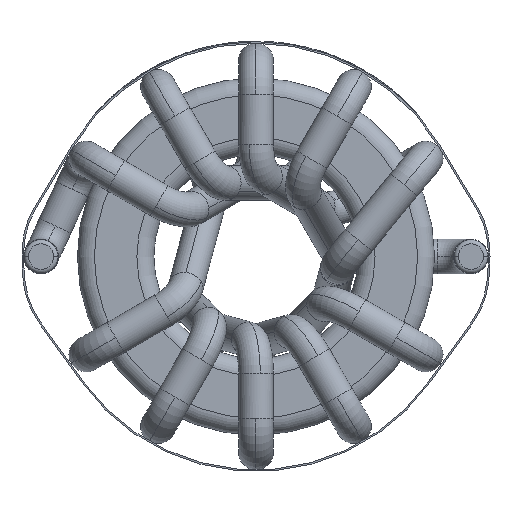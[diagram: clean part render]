
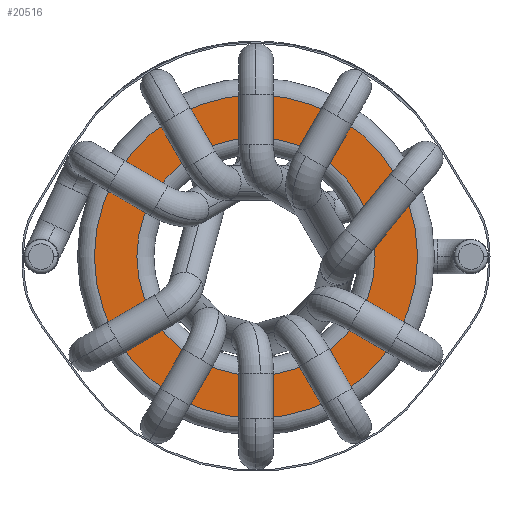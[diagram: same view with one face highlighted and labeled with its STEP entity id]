
A CAD part, front view. The second image highlights one B-rep face of the part: STEP entity #20516.
In plain terms, the highlighted planar face has unit normal (0, -1, 0).
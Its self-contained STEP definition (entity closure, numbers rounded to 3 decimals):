
#249 = CARTESIAN_POINT ( 'NONE',  ( 0., -3.555, 0. ) ) ;
#1054 = DIRECTION ( 'NONE',  ( 0., 1., 0. ) ) ;
#1132 = CARTESIAN_POINT ( 'NONE',  ( 0., -3.555, 0. ) ) ;
#1328 = VERTEX_POINT ( 'NONE', #8190 ) ;
#2429 = VERTEX_POINT ( 'NONE', #19123 ) ;
#2805 = CIRCLE ( 'NONE', #12874, 9.55 ) ;
#2823 = CARTESIAN_POINT ( 'NONE',  ( 0., -3.555, -9.55 ) ) ;
#2970 = DIRECTION ( 'NONE',  ( 0., 0., 1. ) ) ;
#3261 = EDGE_LOOP ( 'NONE', ( #7133, #7028 ) ) ;
#4321 = CARTESIAN_POINT ( 'NONE',  ( 0., -3.555, 0. ) ) ;
#5499 = DIRECTION ( 'NONE',  ( 0., 0., 1. ) ) ;
#7028 = ORIENTED_EDGE ( 'NONE', *, *, #14962, .T. ) ;
#7133 = ORIENTED_EDGE ( 'NONE', *, *, #19582, .T. ) ;
#8052 = PLANE ( 'NONE',  #20066 ) ;
#8190 = CARTESIAN_POINT ( 'NONE',  ( 0., -3.555, 7.035 ) ) ;
#8984 = EDGE_CURVE ( 'NONE', #2429, #1328, #20217, .T. ) ;
#10670 = AXIS2_PLACEMENT_3D ( 'NONE', #13580, #15247, #5499 ) ;
#10778 = CIRCLE ( 'NONE', #14723, 7.035 ) ;
#11069 = DIRECTION ( 'NONE',  ( 0., -1., 0. ) ) ;
#11091 = ORIENTED_EDGE ( 'NONE', *, *, #8984, .T. ) ;
#11337 = ORIENTED_EDGE ( 'NONE', *, *, #15934, .T. ) ;
#11715 = CARTESIAN_POINT ( 'NONE',  ( 0., -3.555, 0. ) ) ;
#11813 = VERTEX_POINT ( 'NONE', #2823 ) ;
#12466 = CARTESIAN_POINT ( 'NONE',  ( 0., -3.555, 9.55 ) ) ;
#12874 = AXIS2_PLACEMENT_3D ( 'NONE', #1132, #11069, #2970 ) ;
#13209 = DIRECTION ( 'NONE',  ( 0., 0., 1. ) ) ;
#13527 = DIRECTION ( 'NONE',  ( 0., 1., 0. ) ) ;
#13580 = CARTESIAN_POINT ( 'NONE',  ( 0., -3.555, 0. ) ) ;
#14614 = DIRECTION ( 'NONE',  ( 0., 1., 0. ) ) ;
#14723 = AXIS2_PLACEMENT_3D ( 'NONE', #11715, #13527, #19816 ) ;
#14962 = EDGE_CURVE ( 'NONE', #11813, #20360, #18607, .T. ) ;
#15247 = DIRECTION ( 'NONE',  ( 0., -1., 0. ) ) ;
#15615 = FACE_BOUND ( 'NONE', #20774, .T. ) ;
#15934 = EDGE_CURVE ( 'NONE', #1328, #2429, #10778, .T. ) ;
#17265 = AXIS2_PLACEMENT_3D ( 'NONE', #4321, #1054, #18878 ) ;
#18607 = CIRCLE ( 'NONE', #10670, 9.55 ) ;
#18878 = DIRECTION ( 'NONE',  ( 0., 0., 1. ) ) ;
#18911 = FACE_OUTER_BOUND ( 'NONE', #3261, .T. ) ;
#19123 = CARTESIAN_POINT ( 'NONE',  ( 0., -3.555, -7.035 ) ) ;
#19582 = EDGE_CURVE ( 'NONE', #20360, #11813, #2805, .T. ) ;
#19816 = DIRECTION ( 'NONE',  ( 0., 0., 1. ) ) ;
#20066 = AXIS2_PLACEMENT_3D ( 'NONE', #249, #14614, #13209 ) ;
#20217 = CIRCLE ( 'NONE', #17265, 7.035 ) ;
#20360 = VERTEX_POINT ( 'NONE', #12466 ) ;
#20516 = ADVANCED_FACE ( 'NONE', ( #15615, #18911 ), #8052, .F. ) ;
#20774 = EDGE_LOOP ( 'NONE', ( #11337, #11091 ) ) ;
